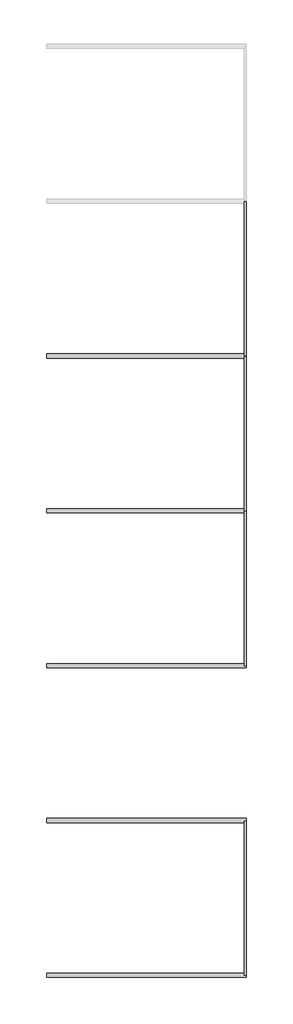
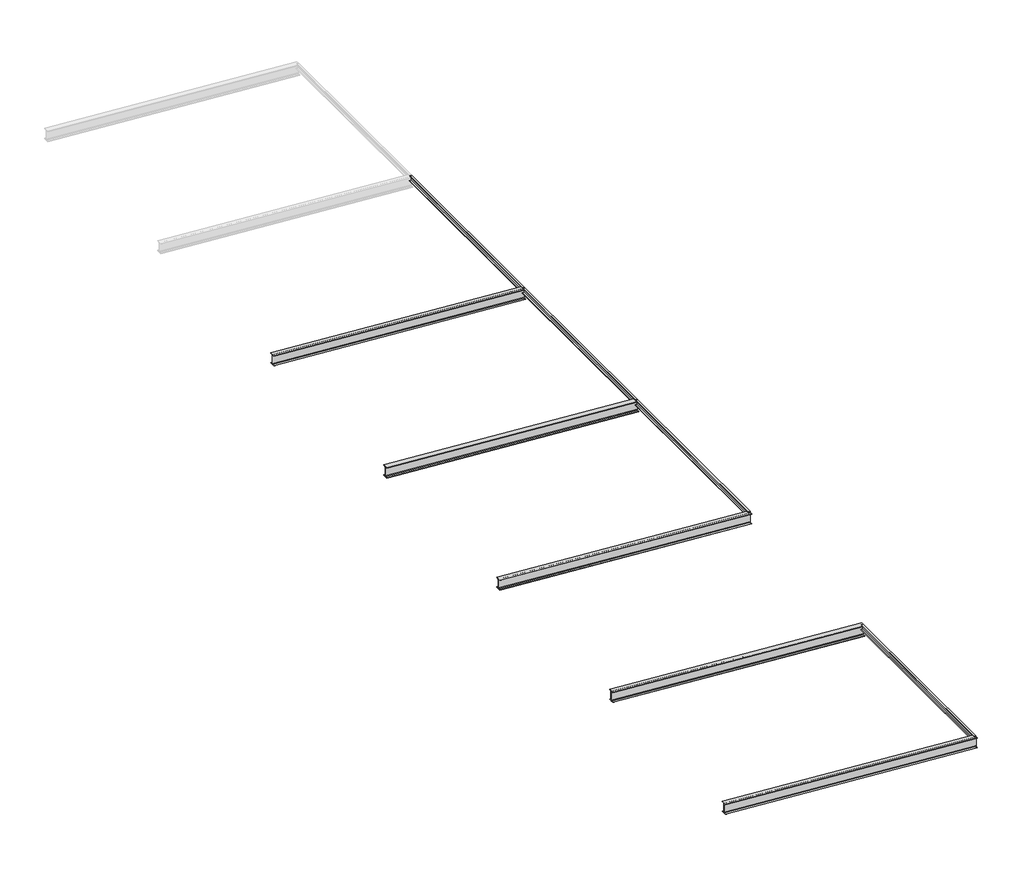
# One storey, part 1 of 2: 9 beams.
"""IFC4 building model written with IfcOpenShell, lengths in millimetres."""

from ifc_helpers import new_model, si_unit, frame, origin, place, context, project, spatial, polyline, ellipse_curve, transform, mapped, element, save
from ifc_brep_helpers import plane_surface, revolved_surface, advanced_brep
from components import c160_676f0d43

model = new_model("IFC4")

# Units and contexts
model_context = context("Model", 3, world=origin())
ifc_project = project(units=[si_unit("LENGTHUNIT", "METRE", prefix="MILLI")], contexts=[model_context])

# Site, building, storey
site = spatial("IfcSite", under=ifc_project)
building = spatial("IfcBuilding", under=site)
storey = spatial("IfcBuildingStorey", under=building, Name="+3,50 góra", Elevation=3504.0)

# Beams
placement = place(None, origin())
c160_shape = c160_676f0d43(model_context)
element("IfcBeam", 1, ObjectType="RPLN C - Ceowniki normalne : C160", at=placement, inside=storey, context=model_context, shape_type="MappedRepresentation", body=[
    mapped(c160_shape, transform((11806.0493936, -33912.4816585, 3761.259887), x_axis=(0.0, -1.0, 0.0), y_axis=(0.997461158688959, 0.0, -0.07121261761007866), z_axis=(0.07121261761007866, 0.0, 0.997461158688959))),
])
element("IfcBeam", 2, ObjectType="RPLN C - Ceowniki normalne : C160", at=placement, inside=storey, context=model_context, shape_type="MappedRepresentation", body=[
    mapped(c160_shape, transform((11806.0493936, -21912.4816585, 3761.259887), x_axis=(0.0, -1.0, 0.0), y_axis=(0.997461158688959, 0.0, -0.07121261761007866), z_axis=(0.07121261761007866, 0.0, 0.997461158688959))),
])
element("IfcBeam", 3, ObjectType="RPLN C - Ceowniki normalne : C160", at=placement, inside=storey, context=model_context, shape_type="MappedRepresentation", body=[
    mapped(c160_shape, transform((11806.0493936, -15912.4816585, 3761.259887), x_axis=(0.0, -1.0, 0.0), y_axis=(0.997461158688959, 0.0, -0.07121261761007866), z_axis=(0.07121261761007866, 0.0, 0.997461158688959))),
])
element("IfcBeam", 4, ObjectType="RPLN C - Ceowniki normalne : C160", at=placement, inside=storey, context=model_context, shape_type="MappedRepresentation", body=[
    mapped(c160_shape, transform((11806.0493936, -9912.4816585, 3761.259887), x_axis=(0.0, -1.0, 0.0), y_axis=(0.997461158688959, 0.0, -0.07121261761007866), z_axis=(0.07121261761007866, 0.0, 0.997461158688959))),
])
element("IfcBeam", 5, ObjectType="RPLN IPE - Dwuteowniki równoległościenne : I330PE", at=placement, inside=storey, context=model_context, shape_type="AdvancedBrep", body=[
    advanced_brep(
    [(4098.4032904, -36890.7316585, 4062.6389037), (4098.4032904, -36832.4816585, 4062.6389037), (4098.4032904, -36832.4816585, 4051.1096327), (4098.4032904, -36992.4816585, 4051.1096327), (4098.4032904, -36992.4816585, 4062.6389037), (4098.4032904, -36934.2316585, 4062.6389037), (4098.4032904, -36916.2316585, 4080.6847192), (4098.4032904, -36916.2316585, 4352.3744964), (4098.4032904, -36934.2316585, 4370.4203118), (4098.4032904, -36992.4816585, 4370.4203118), (4098.4032904, -36992.4816585, 4381.9495828), (4098.4032904, -36832.4816585, 4381.9495828), (4098.4032904, -36832.4816585, 4370.4203118), (4098.4032904, -36890.7316585, 4370.4203118), (4098.4032904, -36908.7316585, 4352.3744964), (4098.4032904, -36908.7316585, 4080.6847192), (11827.9888896, -36832.4816585, 3510.7938331), (11827.9888896, -36890.7316585, 3510.7938331), (11827.9888896, -36908.7316585, 3528.8396485), (11827.9888896, -36908.7316585, 3800.5294258), (11827.9888896, -36890.7316585, 3818.5752412), (11827.9888896, -36832.4816585, 3818.5752412), (11827.9888896, -36832.4816585, 3830.1045122), (11827.9888896, -36992.4816585, 3830.1045122), (11827.9888896, -36992.4816585, 3818.5752412), (11827.9888896, -36934.2316585, 3818.5752412), (11827.9888896, -36916.2316585, 3800.5294258), (11827.9888896, -36916.2316585, 3528.8396485), (11827.9888896, -36934.2316585, 3510.7938331), (11827.9888896, -36992.4816585, 3510.7938331), (11827.9888896, -36992.4816585, 3499.2645621), (11827.9888896, -36832.4816585, 3499.2645621)],
    [
        (0, 1),
        (1, 2),
        (2, 3),
        (3, 4),
        (4, 5),
        (5, 6, ellipse_curve(frame((4098.4032904, -36934.2316585, 4080.6847192), z_axis=(1.0, 0.0, 0.0), x_axis=(0.0, 0.0, 1.0)), 18.0458155, 18.0)),
        (6, 7),
        (7, 8, ellipse_curve(frame((4098.4032904, -36934.2316585, 4352.3744964), z_axis=(1.0, 0.0, 0.0), x_axis=(0.0, 0.0, 1.0)), 18.0458155, 18.0)),
        (8, 9),
        (9, 10),
        (10, 11),
        (11, 12),
        (12, 13),
        (13, 14, ellipse_curve(frame((4098.4032904, -36890.7316585, 4352.3744964), z_axis=(1.0, 0.0, 0.0), x_axis=(0.0, 0.0, 1.0)), 18.0458155, 18.0)),
        (14, 15),
        (15, 0, ellipse_curve(frame((4098.4032904, -36890.7316585, 4080.6847192), z_axis=(1.0, 0.0, 0.0), x_axis=(0.0, 0.0, 1.0)), 18.0458155, 18.0)),
        (16, 17),
        (17, 18, ellipse_curve(frame((11827.9888896, -36890.7316585, 3528.8396485), z_axis=(-1.0, 0.0, 0.0), x_axis=(0.0, 0.0, 1.0)), 18.0458155, 18.0)),
        (18, 19),
        (19, 20, ellipse_curve(frame((11827.9888896, -36890.7316585, 3800.5294258), z_axis=(-1.0, 0.0, 0.0), x_axis=(0.0, 0.0, 1.0)), 18.0458155, 18.0)),
        (20, 21),
        (21, 22),
        (22, 23),
        (23, 24),
        (24, 25),
        (25, 26, ellipse_curve(frame((11827.9888896, -36934.2316585, 3800.5294258), z_axis=(-1.0, 0.0, 0.0), x_axis=(0.0, 0.0, 1.0)), 18.0458155, 18.0)),
        (26, 27),
        (27, 28, ellipse_curve(frame((11827.9888896, -36934.2316585, 3528.8396485), z_axis=(-1.0, 0.0, 0.0), x_axis=(0.0, 0.0, 1.0)), 18.0458155, 18.0)),
        (28, 29),
        (29, 30),
        (30, 31),
        (31, 16),
        (16, 1),
        (0, 17),
        (31, 2),
        (30, 3),
        (29, 4),
        (28, 5),
        (27, 6),
        (26, 7),
        (25, 8),
        (24, 9),
        (23, 10),
        (22, 11),
        (21, 12),
        (20, 13),
        (19, 14),
        (18, 15),
    ],
    [
        plane_surface(frame((4098.4032904, -28791.4644976, 4040.8513801), z_axis=(-1.0, 0.0, 0.0), x_axis=(0.0, 0.0, -1.0))),
        plane_surface(frame((11827.9888896, -28791.4644976, 3790.5936883), z_axis=(1.0, 0.0, 0.0), x_axis=(0.0, 0.0, 1.0))),
        plane_surface(frame((11911.7510301, -36832.4816585, 3504.8137292), z_axis=(0.07121261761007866, 0.0, 0.997461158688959), x_axis=(-0.997461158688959, 0.0, 0.07121261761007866))),
        plane_surface(frame((11910.932085, -36832.4816585, 3493.3429259), z_axis=(0.0, 1.0, 0.0), x_axis=(-0.997461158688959, 0.0, 0.07121261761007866))),
        plane_surface(frame((11910.932085, -36992.4816585, 3493.3429259), z_axis=(-0.07121261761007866, 0.0, -0.997461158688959), x_axis=(-0.997461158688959, 0.0, 0.07121261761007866))),
        plane_surface(frame((11911.7510301, -36992.4816585, 3504.8137292), z_axis=(0.0, -1.0, 0.0), x_axis=(-0.997461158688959, 0.0, 0.07121261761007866))),
        plane_surface(frame((11911.7510301, -36934.2316585, 3504.8137292), z_axis=(0.07121261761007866, 0.0, 0.997461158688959), x_axis=(-0.997461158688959, 0.0, 0.07121261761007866))),
        revolved_surface(polyline([(4097.12146327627, -36952.2316585, 4080.7762337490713), (11829.270716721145, -36952.2316585, 3528.7481339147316)]), (11913.0328572, -36934.2316585, 3522.7680301), (-0.997461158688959, 0.0, 0.07121261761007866)),
        plane_surface(frame((11932.3314766, -36916.2316585, 3793.0800041), z_axis=(0.0, -1.0, 0.0), x_axis=(-0.997461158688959, 0.0, 0.07121261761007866))),
        revolved_surface(polyline([(4097.121463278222, -36952.2316585, 4352.466010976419), (11829.270716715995, -36952.2316585, 3800.4379111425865)]), (11932.3314766, -36934.2316585, 3793.0800041), (-0.997461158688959, 0.0, 0.07121261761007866)),
        plane_surface(frame((11933.6133037, -36992.4816585, 3811.034305), z_axis=(-0.07121261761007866, 0.0, -0.997461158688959), x_axis=(-0.997461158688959, 0.0, 0.07121261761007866))),
        plane_surface(frame((11934.4322488, -36992.4816585, 3822.5051083), z_axis=(0.0, -1.0, 0.0), x_axis=(-0.997461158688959, 0.0, 0.07121261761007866))),
        plane_surface(frame((11934.4322488, -36832.4816585, 3822.5051083), z_axis=(0.07121261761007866, 0.0, 0.997461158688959), x_axis=(-0.997461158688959, 0.0, 0.07121261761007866))),
        plane_surface(frame((11933.6133037, -36832.4816585, 3811.034305), z_axis=(0.0, 1.0, 0.0), x_axis=(-0.997461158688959, 0.0, 0.07121261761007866))),
        plane_surface(frame((11933.6133037, -36890.7316585, 3811.034305), z_axis=(-0.07121261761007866, 0.0, -0.997461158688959), x_axis=(-0.997461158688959, 0.0, 0.07121261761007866))),
        revolved_surface(polyline([(4097.121463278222, -36908.7316585, 4352.466010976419), (11829.270716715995, -36908.7316585, 3800.4379111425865)]), (11932.3314766, -36890.7316585, 3793.0800041), (-0.997461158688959, 0.0, 0.07121261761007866)),
        plane_surface(frame((11913.0328572, -36908.7316585, 3522.7680301), z_axis=(0.0, 1.0, 0.0), x_axis=(-0.997461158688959, 0.0, 0.07121261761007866))),
        revolved_surface(polyline([(4097.12146327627, -36908.7316585, 4080.7762337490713), (11829.270716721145, -36908.7316585, 3528.7481339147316)]), (11913.0328572, -36890.7316585, 3522.7680301), (-0.997461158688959, 0.0, 0.07121261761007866)),
    ],
    [
        (0, [[1, 2, 3, 4, 5, 6, 7, 8, 9, 10, 11, 12, 13, 14, 15, 16]]),
        (1, [[17, 18, 19, 20, 21, 22, 23, 24, 25, 26, 27, 28, 29, 30, 31, 32]]),
        (2, [[33, -1, 34, -17]]),
        (3, [[35, -2, -33, -32]]),
        (4, [[36, -3, -35, -31]]),
        (5, [[37, -4, -36, -30]]),
        (6, [[38, -5, -37, -29]]),
        (7, [[39, -6, -38, -28]]),
        (8, [[40, -7, -39, -27]]),
        (9, [[41, -8, -40, -26]]),
        (10, [[42, -9, -41, -25]]),
        (11, [[43, -10, -42, -24]]),
        (12, [[44, -11, -43, -23]]),
        (13, [[45, -12, -44, -22]]),
        (14, [[46, -13, -45, -21]]),
        (15, [[47, -14, -46, -20]]),
        (16, [[48, -15, -47, -19]]),
        (17, [[-34, -16, -48, -18]]),
    ],
),
])
element("IfcBeam", 6, ObjectType="RPLN IPE - Dwuteowniki równoległościenne : I330PE", at=placement, inside=storey, context=model_context, shape_type="AdvancedBrep", body=[
    advanced_brep(
    [(4098.4032904, -30890.7316585, 4052.3806511), (4098.4032904, -30832.4816585, 4052.3806511), (4098.4032904, -30832.4816585, 4040.8513801), (4098.4032904, -30992.4816585, 4040.8513801), (4098.4032904, -30992.4816585, 4052.3806511), (4098.4032904, -30934.2316585, 4052.3806511), (4098.4032904, -30916.2316585, 4070.4264665), (4098.4032904, -30916.2316585, 4342.1162438), (4098.4032904, -30934.2316585, 4360.1620592), (4098.4032904, -30992.4816585, 4360.1620592), (4098.4032904, -30992.4816585, 4371.6913302), (4098.4032904, -30832.4816585, 4371.6913302), (4098.4032904, -30832.4816585, 4360.1620592), (4098.4032904, -30890.7316585, 4360.1620592), (4098.4032904, -30908.7316585, 4342.1162438), (4098.4032904, -30908.7316585, 4070.4264665), (11827.9888896, -30832.4816585, 3500.5355804), (11827.9888896, -30890.7316585, 3500.5355804), (11827.9888896, -30908.7316585, 3518.5813959), (11827.9888896, -30908.7316585, 3790.2711731), (11827.9888896, -30890.7316585, 3808.3169886), (11827.9888896, -30832.4816585, 3808.3169886), (11827.9888896, -30832.4816585, 3819.8462596), (11827.9888896, -30992.4816585, 3819.8462596), (11827.9888896, -30992.4816585, 3808.3169886), (11827.9888896, -30934.2316585, 3808.3169886), (11827.9888896, -30916.2316585, 3790.2711731), (11827.9888896, -30916.2316585, 3518.5813959), (11827.9888896, -30934.2316585, 3500.5355804), (11827.9888896, -30992.4816585, 3500.5355804), (11827.9888896, -30992.4816585, 3489.0063094), (11827.9888896, -30832.4816585, 3489.0063094)],
    [
        (0, 1),
        (1, 2),
        (2, 3),
        (3, 4),
        (4, 5),
        (5, 6, ellipse_curve(frame((4098.4032904, -30934.2316585, 4070.4264665), z_axis=(1.0, 0.0, 0.0), x_axis=(0.0, 0.0, 1.0)), 18.0458155, 18.0)),
        (6, 7),
        (7, 8, ellipse_curve(frame((4098.4032904, -30934.2316585, 4342.1162438), z_axis=(1.0, 0.0, 0.0), x_axis=(0.0, 0.0, 1.0)), 18.0458155, 18.0)),
        (8, 9),
        (9, 10),
        (10, 11),
        (11, 12),
        (12, 13),
        (13, 14, ellipse_curve(frame((4098.4032904, -30890.7316585, 4342.1162438), z_axis=(1.0, 0.0, 0.0), x_axis=(0.0, 0.0, 1.0)), 18.0458155, 18.0)),
        (14, 15),
        (15, 0, ellipse_curve(frame((4098.4032904, -30890.7316585, 4070.4264665), z_axis=(1.0, 0.0, 0.0), x_axis=(0.0, 0.0, 1.0)), 18.0458155, 18.0)),
        (16, 17),
        (17, 18, ellipse_curve(frame((11827.9888896, -30890.7316585, 3518.5813959), z_axis=(-1.0, 0.0, 0.0), x_axis=(0.0, 0.0, 1.0)), 18.0458155, 18.0)),
        (18, 19),
        (19, 20, ellipse_curve(frame((11827.9888896, -30890.7316585, 3790.2711731), z_axis=(-1.0, 0.0, 0.0), x_axis=(0.0, 0.0, 1.0)), 18.0458155, 18.0)),
        (20, 21),
        (21, 22),
        (22, 23),
        (23, 24),
        (24, 25),
        (25, 26, ellipse_curve(frame((11827.9888896, -30934.2316585, 3790.2711731), z_axis=(-1.0, 0.0, 0.0), x_axis=(0.0, 0.0, 1.0)), 18.0458155, 18.0)),
        (26, 27),
        (27, 28, ellipse_curve(frame((11827.9888896, -30934.2316585, 3518.5813959), z_axis=(-1.0, 0.0, 0.0), x_axis=(0.0, 0.0, 1.0)), 18.0458155, 18.0)),
        (28, 29),
        (29, 30),
        (30, 31),
        (31, 16),
        (16, 1),
        (0, 17),
        (31, 2),
        (30, 3),
        (29, 4),
        (28, 5),
        (27, 6),
        (26, 7),
        (25, 8),
        (24, 9),
        (23, 10),
        (22, 11),
        (21, 12),
        (20, 13),
        (19, 14),
        (18, 15),
    ],
    [
        plane_surface(frame((4098.4032904, -28791.4644976, 4040.8513801), z_axis=(-1.0, 0.0, 0.0), x_axis=(0.0, 0.0, -1.0))),
        plane_surface(frame((11827.9888896, -28791.4644976, 3790.5936883), z_axis=(1.0, 0.0, 0.0), x_axis=(0.0, 0.0, 1.0))),
        plane_surface(frame((11876.6555373, -30832.4816585, 3497.0610799), z_axis=(0.07121261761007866, 0.0, 0.997461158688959), x_axis=(-0.997461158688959, 0.0, 0.07121261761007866))),
        plane_surface(frame((11875.8365922, -30832.4816585, 3485.5902765), z_axis=(0.0, 1.0, 0.0), x_axis=(-0.997461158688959, 0.0, 0.07121261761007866))),
        plane_surface(frame((11875.8365922, -30992.4816585, 3485.5902765), z_axis=(-0.07121261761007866, 0.0, -0.997461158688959), x_axis=(-0.997461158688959, 0.0, 0.07121261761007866))),
        plane_surface(frame((11876.6555373, -30992.4816585, 3497.0610799), z_axis=(0.0, -1.0, 0.0), x_axis=(-0.997461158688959, 0.0, 0.07121261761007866))),
        plane_surface(frame((11876.6555373, -30934.2316585, 3497.0610799), z_axis=(0.07121261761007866, 0.0, 0.997461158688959), x_axis=(-0.997461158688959, 0.0, 0.07121261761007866))),
        revolved_surface(polyline([(4097.121463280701, -30952.2316585, 4070.517981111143), (11829.270716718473, -30952.2316585, 3518.48988127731)]), (11877.9373644, -30934.2316585, 3515.0153807), (-0.997461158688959, 0.0, 0.07121261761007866)),
        plane_surface(frame((11897.2359838, -30916.2316585, 3785.3273547), z_axis=(0.0, -1.0, 0.0), x_axis=(-0.997461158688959, 0.0, 0.07121261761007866))),
        revolved_surface(polyline([(4097.121463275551, -30952.2316585, 4342.207758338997), (11829.270716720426, -30952.2316585, 3790.1796585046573)]), (11897.2359838, -30934.2316585, 3785.3273547), (-0.997461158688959, 0.0, 0.07121261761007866)),
        plane_surface(frame((11898.5178109, -30992.4816585, 3803.2816556), z_axis=(-0.07121261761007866, 0.0, -0.997461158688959), x_axis=(-0.997461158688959, 0.0, 0.07121261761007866))),
        plane_surface(frame((11899.336756, -30992.4816585, 3814.7524589), z_axis=(0.0, -1.0, 0.0), x_axis=(-0.997461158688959, 0.0, 0.07121261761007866))),
        plane_surface(frame((11899.336756, -30832.4816585, 3814.7524589), z_axis=(0.07121261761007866, 0.0, 0.997461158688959), x_axis=(-0.997461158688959, 0.0, 0.07121261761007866))),
        plane_surface(frame((11898.5178109, -30832.4816585, 3803.2816556), z_axis=(0.0, 1.0, 0.0), x_axis=(-0.997461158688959, 0.0, 0.07121261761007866))),
        plane_surface(frame((11898.5178109, -30890.7316585, 3803.2816556), z_axis=(-0.07121261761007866, 0.0, -0.997461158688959), x_axis=(-0.997461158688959, 0.0, 0.07121261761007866))),
        revolved_surface(polyline([(4097.121463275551, -30908.7316585, 4342.207758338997), (11829.270716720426, -30908.7316585, 3790.1796585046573)]), (11897.2359838, -30890.7316585, 3785.3273547), (-0.997461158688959, 0.0, 0.07121261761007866)),
        plane_surface(frame((11877.9373644, -30908.7316585, 3515.0153807), z_axis=(0.0, 1.0, 0.0), x_axis=(-0.997461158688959, 0.0, 0.07121261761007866))),
        revolved_surface(polyline([(4097.121463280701, -30908.7316585, 4070.517981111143), (11829.270716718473, -30908.7316585, 3518.48988127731)]), (11877.9373644, -30890.7316585, 3515.0153807), (-0.997461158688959, 0.0, 0.07121261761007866)),
    ],
    [
        (0, [[1, 2, 3, 4, 5, 6, 7, 8, 9, 10, 11, 12, 13, 14, 15, 16]]),
        (1, [[17, 18, 19, 20, 21, 22, 23, 24, 25, 26, 27, 28, 29, 30, 31, 32]]),
        (2, [[33, -1, 34, -17]]),
        (3, [[35, -2, -33, -32]]),
        (4, [[36, -3, -35, -31]]),
        (5, [[37, -4, -36, -30]]),
        (6, [[38, -5, -37, -29]]),
        (7, [[39, -6, -38, -28]]),
        (8, [[40, -7, -39, -27]]),
        (9, [[41, -8, -40, -26]]),
        (10, [[42, -9, -41, -25]]),
        (11, [[43, -10, -42, -24]]),
        (12, [[44, -11, -43, -23]]),
        (13, [[45, -12, -44, -22]]),
        (14, [[46, -13, -45, -21]]),
        (15, [[47, -14, -46, -20]]),
        (16, [[48, -15, -47, -19]]),
        (17, [[-34, -16, -48, -18]]),
    ],
),
])
element("IfcBeam", 7, ObjectType="RPLN IPE - Dwuteowniki równoległościenne : I330PE", at=placement, inside=storey, context=model_context, shape_type="AdvancedBrep", body=[
    advanced_brep(
    [(11827.9888896, -24832.4816585, 3500.5355804), (11827.9888896, -24890.7316585, 3500.5355804), (11827.9888896, -24908.7316585, 3518.5813959), (11827.9888896, -24908.7316585, 3790.2711731), (11827.9888896, -24890.7316585, 3808.3169886), (11827.9888896, -24832.4816585, 3808.3169886), (11827.9888896, -24832.4816585, 3819.8462596), (11827.9888896, -24992.4816585, 3819.8462596), (11827.9888896, -24992.4816585, 3808.3169886), (11827.9888896, -24934.2316585, 3808.3169886), (11827.9888896, -24916.2316585, 3790.2711731), (11827.9888896, -24916.2316585, 3518.5813959), (11827.9888896, -24934.2316585, 3500.5355804), (11827.9888896, -24992.4816585, 3500.5355804), (11827.9888896, -24992.4816585, 3489.0063094), (11827.9888896, -24832.4816585, 3489.0063094), (4098.4032904, -24832.4816585, 4052.3806511), (4098.4032904, -24832.4816585, 4040.8513801), (4098.4032904, -24992.4816585, 4040.8513801), (4098.4032904, -24992.4816585, 4052.3806511), (4098.4032904, -24934.2316585, 4052.3806511), (4098.4032904, -24916.2316585, 4070.4264665), (4098.4032904, -24916.2316585, 4342.1162438), (4098.4032904, -24934.2316585, 4360.1620592), (4098.4032904, -24992.4816585, 4360.1620592), (4098.4032904, -24992.4816585, 4371.6913302), (4098.4032904, -24832.4816585, 4371.6913302), (4098.4032904, -24832.4816585, 4360.1620592), (4098.4032904, -24890.7316585, 4360.1620592), (4098.4032904, -24908.7316585, 4342.1162438), (4098.4032904, -24908.7316585, 4070.4264665), (4098.4032904, -24890.7316585, 4052.3806511)],
    [
        (0, 1),
        (1, 2, ellipse_curve(frame((11827.9888896, -24890.7316585, 3518.5813959), z_axis=(-1.0, 0.0, 0.0), x_axis=(0.0, 0.0, 1.0)), 18.0458155, 18.0)),
        (2, 3),
        (3, 4, ellipse_curve(frame((11827.9888896, -24890.7316585, 3790.2711731), z_axis=(-1.0, 0.0, 0.0), x_axis=(0.0, 0.0, 1.0)), 18.0458155, 18.0)),
        (4, 5),
        (5, 6),
        (6, 7),
        (7, 8),
        (8, 9),
        (9, 10, ellipse_curve(frame((11827.9888896, -24934.2316585, 3790.2711731), z_axis=(-1.0, 0.0, 0.0), x_axis=(0.0, 0.0, 1.0)), 18.0458155, 18.0)),
        (10, 11),
        (11, 12, ellipse_curve(frame((11827.9888896, -24934.2316585, 3518.5813959), z_axis=(-1.0, 0.0, 0.0), x_axis=(0.0, 0.0, 1.0)), 18.0458155, 18.0)),
        (12, 13),
        (13, 14),
        (14, 15),
        (15, 0),
        (16, 17),
        (17, 18),
        (18, 19),
        (19, 20),
        (20, 21, ellipse_curve(frame((4098.4032904, -24934.2316585, 4070.4264665), z_axis=(1.0, 0.0, 0.0), x_axis=(0.0, 0.0, 1.0)), 18.0458155, 18.0)),
        (21, 22),
        (22, 23, ellipse_curve(frame((4098.4032904, -24934.2316585, 4342.1162438), z_axis=(1.0, 0.0, 0.0), x_axis=(0.0, 0.0, 1.0)), 18.0458155, 18.0)),
        (23, 24),
        (24, 25),
        (25, 26),
        (26, 27),
        (27, 28),
        (28, 29, ellipse_curve(frame((4098.4032904, -24890.7316585, 4342.1162438), z_axis=(1.0, 0.0, 0.0), x_axis=(0.0, 0.0, 1.0)), 18.0458155, 18.0)),
        (29, 30),
        (30, 31, ellipse_curve(frame((4098.4032904, -24890.7316585, 4070.4264665), z_axis=(1.0, 0.0, 0.0), x_axis=(0.0, 0.0, 1.0)), 18.0458155, 18.0)),
        (31, 16),
        (0, 16),
        (31, 1),
        (30, 2),
        (29, 3),
        (28, 4),
        (27, 5),
        (26, 6),
        (25, 7),
        (24, 8),
        (23, 9),
        (22, 10),
        (21, 11),
        (20, 12),
        (19, 13),
        (18, 14),
        (17, 15),
    ],
    [
        plane_surface(frame((11827.9888896, -28791.4644976, 3790.5936883), z_axis=(1.0, 0.0, 0.0), x_axis=(0.0, 0.0, 1.0))),
        plane_surface(frame((4098.4032904, -28791.4644976, 4040.8513801), z_axis=(-1.0, 0.0, 0.0), x_axis=(0.0, 0.0, -1.0))),
        plane_surface(frame((12010.8699902, -24832.4816585, 3487.4789899), z_axis=(0.07121261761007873, 0.0, 0.997461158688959), x_axis=(-0.997461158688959, 0.0, 0.07121261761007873))),
        revolved_surface(polyline([(4097.121463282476, -24908.7316585, 4070.5179811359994), (11829.270716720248, -24908.7316585, 3518.489881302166)]), (12012.1518174, -24890.7316585, 3505.4332908), (-0.997461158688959, 0.0, 0.07121261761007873)),
        plane_surface(frame((12012.1518174, -24908.7316585, 3505.4332908), z_axis=(0.0, 1.0, 0.0), x_axis=(-0.997461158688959, 0.0, 0.07121261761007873))),
        revolved_surface(polyline([(4097.121463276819, -24908.7316585, 4342.207758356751), (11829.270716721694, -24908.7316585, 3790.17965852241)]), (12031.4504367, -24890.7316585, 3775.7452648), (-0.997461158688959, 0.0, 0.07121261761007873)),
        plane_surface(frame((12032.7322638, -24890.7316585, 3793.6995657), z_axis=(-0.07121261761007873, 0.0, -0.997461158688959), x_axis=(-0.997461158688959, 0.0, 0.07121261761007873))),
        plane_surface(frame((12032.7322638, -24832.4816585, 3793.6995657), z_axis=(0.0, 1.0, 0.0), x_axis=(-0.997461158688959, 0.0, 0.07121261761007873))),
        plane_surface(frame((12033.551209, -24832.4816585, 3805.170369), z_axis=(0.07121261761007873, 0.0, 0.997461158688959), x_axis=(-0.997461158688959, 0.0, 0.07121261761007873))),
        plane_surface(frame((12033.551209, -24992.4816585, 3805.170369), z_axis=(0.0, -1.0, 0.0), x_axis=(-0.997461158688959, 0.0, 0.07121261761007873))),
        plane_surface(frame((12032.7322638, -24992.4816585, 3793.6995657), z_axis=(-0.07121261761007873, 0.0, -0.997461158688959), x_axis=(-0.997461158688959, 0.0, 0.07121261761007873))),
        revolved_surface(polyline([(4097.121463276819, -24952.2316585, 4342.207758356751), (11829.270716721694, -24952.2316585, 3790.17965852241)]), (12031.4504367, -24934.2316585, 3775.7452648), (-0.997461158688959, 0.0, 0.07121261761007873)),
        plane_surface(frame((12031.4504367, -24916.2316585, 3775.7452648), z_axis=(0.0, -1.0, 0.0), x_axis=(-0.997461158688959, 0.0, 0.07121261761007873))),
        revolved_surface(polyline([(4097.121463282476, -24952.2316585, 4070.5179811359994), (11829.270716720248, -24952.2316585, 3518.489881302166)]), (12012.1518174, -24934.2316585, 3505.4332908), (-0.997461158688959, 0.0, 0.07121261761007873)),
        plane_surface(frame((12010.8699902, -24934.2316585, 3487.4789899), z_axis=(0.07121261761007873, 0.0, 0.997461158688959), x_axis=(-0.997461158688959, 0.0, 0.07121261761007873))),
        plane_surface(frame((12010.8699902, -24992.4816585, 3487.4789899), z_axis=(0.0, -1.0, 0.0), x_axis=(-0.997461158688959, 0.0, 0.07121261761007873))),
        plane_surface(frame((12010.0510451, -24992.4816585, 3476.0081866), z_axis=(-0.07121261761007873, 0.0, -0.997461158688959), x_axis=(-0.997461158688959, 0.0, 0.07121261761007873))),
        plane_surface(frame((12010.0510451, -24832.4816585, 3476.0081866), z_axis=(0.0, 1.0, 0.0), x_axis=(-0.997461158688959, 0.0, 0.07121261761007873))),
    ],
    [
        (0, [[1, 2, 3, 4, 5, 6, 7, 8, 9, 10, 11, 12, 13, 14, 15, 16]]),
        (1, [[17, 18, 19, 20, 21, 22, 23, 24, 25, 26, 27, 28, 29, 30, 31, 32]]),
        (2, [[33, -32, 34, -1]]),
        (3, [[-34, -31, 35, -2]]),
        (4, [[-35, -30, 36, -3]]),
        (5, [[-36, -29, 37, -4]]),
        (6, [[-37, -28, 38, -5]]),
        (7, [[-38, -27, 39, -6]]),
        (8, [[-39, -26, 40, -7]]),
        (9, [[-40, -25, 41, -8]]),
        (10, [[-41, -24, 42, -9]]),
        (11, [[-42, -23, 43, -10]]),
        (12, [[-43, -22, 44, -11]]),
        (13, [[-44, -21, 45, -12]]),
        (14, [[-45, -20, 46, -13]]),
        (15, [[-46, -19, 47, -14]]),
        (16, [[-47, -18, 48, -15]]),
        (17, [[-48, -17, -33, -16]]),
    ],
),
])
element("IfcBeam", 8, ObjectType="RPLN IPE - Dwuteowniki równoległościenne : I330PE", at=placement, inside=storey, context=model_context, shape_type="AdvancedBrep", body=[
    advanced_brep(
    [(4098.4032904, -18890.7316585, 4052.3806511), (4098.4032904, -18832.4816585, 4052.3806511), (4098.4032904, -18832.4816585, 4040.8513801), (4098.4032904, -18992.4816585, 4040.8513801), (4098.4032904, -18992.4816585, 4052.3806511), (4098.4032904, -18934.2316585, 4052.3806511), (4098.4032904, -18916.2316585, 4070.4264665), (4098.4032904, -18916.2316585, 4342.1162438), (4098.4032904, -18934.2316585, 4360.1620592), (4098.4032904, -18992.4816585, 4360.1620592), (4098.4032904, -18992.4816585, 4371.6913302), (4098.4032904, -18832.4816585, 4371.6913302), (4098.4032904, -18832.4816585, 4360.1620592), (4098.4032904, -18890.7316585, 4360.1620592), (4098.4032904, -18908.7316585, 4342.1162438), (4098.4032904, -18908.7316585, 4070.4264665), (11827.9888896, -18832.4816585, 3500.5355804), (11827.9888896, -18890.7316585, 3500.5355804), (11827.9888896, -18908.7316585, 3518.5813959), (11827.9888896, -18908.7316585, 3790.2711731), (11827.9888896, -18890.7316585, 3808.3169886), (11827.9888896, -18832.4816585, 3808.3169886), (11827.9888896, -18832.4816585, 3819.8462596), (11827.9888896, -18992.4816585, 3819.8462596), (11827.9888896, -18992.4816585, 3808.3169886), (11827.9888896, -18934.2316585, 3808.3169886), (11827.9888896, -18916.2316585, 3790.2711731), (11827.9888896, -18916.2316585, 3518.5813959), (11827.9888896, -18934.2316585, 3500.5355804), (11827.9888896, -18992.4816585, 3500.5355804), (11827.9888896, -18992.4816585, 3489.0063094), (11827.9888896, -18832.4816585, 3489.0063094)],
    [
        (0, 1),
        (1, 2),
        (2, 3),
        (3, 4),
        (4, 5),
        (5, 6, ellipse_curve(frame((4098.4032904, -18934.2316585, 4070.4264665), z_axis=(1.0, 0.0, 0.0), x_axis=(0.0, 0.0, 1.0)), 18.0458155, 18.0)),
        (6, 7),
        (7, 8, ellipse_curve(frame((4098.4032904, -18934.2316585, 4342.1162438), z_axis=(1.0, 0.0, 0.0), x_axis=(0.0, 0.0, 1.0)), 18.0458155, 18.0)),
        (8, 9),
        (9, 10),
        (10, 11),
        (11, 12),
        (12, 13),
        (13, 14, ellipse_curve(frame((4098.4032904, -18890.7316585, 4342.1162438), z_axis=(1.0, 0.0, 0.0), x_axis=(0.0, 0.0, 1.0)), 18.0458155, 18.0)),
        (14, 15),
        (15, 0, ellipse_curve(frame((4098.4032904, -18890.7316585, 4070.4264665), z_axis=(1.0, 0.0, 0.0), x_axis=(0.0, 0.0, 1.0)), 18.0458155, 18.0)),
        (16, 17),
        (17, 18, ellipse_curve(frame((11827.9888896, -18890.7316585, 3518.5813959), z_axis=(-1.0, 0.0, 0.0), x_axis=(0.0, 0.0, 1.0)), 18.0458155, 18.0)),
        (18, 19),
        (19, 20, ellipse_curve(frame((11827.9888896, -18890.7316585, 3790.2711731), z_axis=(-1.0, 0.0, 0.0), x_axis=(0.0, 0.0, 1.0)), 18.0458155, 18.0)),
        (20, 21),
        (21, 22),
        (22, 23),
        (23, 24),
        (24, 25),
        (25, 26, ellipse_curve(frame((11827.9888896, -18934.2316585, 3790.2711731), z_axis=(-1.0, 0.0, 0.0), x_axis=(0.0, 0.0, 1.0)), 18.0458155, 18.0)),
        (26, 27),
        (27, 28, ellipse_curve(frame((11827.9888896, -18934.2316585, 3518.5813959), z_axis=(-1.0, 0.0, 0.0), x_axis=(0.0, 0.0, 1.0)), 18.0458155, 18.0)),
        (28, 29),
        (29, 30),
        (30, 31),
        (31, 16),
        (16, 1),
        (0, 17),
        (31, 2),
        (30, 3),
        (29, 4),
        (28, 5),
        (27, 6),
        (26, 7),
        (25, 8),
        (24, 9),
        (23, 10),
        (22, 11),
        (21, 12),
        (20, 13),
        (19, 14),
        (18, 15),
    ],
    [
        plane_surface(frame((4098.4032904, -28791.4644976, 4040.8513801), z_axis=(-1.0, 0.0, 0.0), x_axis=(0.0, 0.0, -1.0))),
        plane_surface(frame((11827.9888896, -28791.4644976, 3790.5936883), z_axis=(1.0, 0.0, 0.0), x_axis=(0.0, 0.0, 1.0))),
        plane_surface(frame((11936.0089386, -18832.4816585, 3492.8236105), z_axis=(0.07121261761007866, 0.0, 0.997461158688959), x_axis=(-0.997461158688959, 0.0, 0.07121261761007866))),
        plane_surface(frame((11935.1899935, -18832.4816585, 3481.3528072), z_axis=(0.0, 1.0, 0.0), x_axis=(-0.997461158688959, 0.0, 0.07121261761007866))),
        plane_surface(frame((11935.1899935, -18992.4816585, 3481.3528072), z_axis=(-0.07121261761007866, 0.0, -0.997461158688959), x_axis=(-0.997461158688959, 0.0, 0.07121261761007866))),
        plane_surface(frame((11936.0089386, -18992.4816585, 3492.8236105), z_axis=(0.0, -1.0, 0.0), x_axis=(-0.997461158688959, 0.0, 0.07121261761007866))),
        plane_surface(frame((11936.0089386, -18934.2316585, 3492.8236105), z_axis=(0.07121261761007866, 0.0, 0.997461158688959), x_axis=(-0.997461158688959, 0.0, 0.07121261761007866))),
        revolved_surface(polyline([(4097.121463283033, -18952.2316585, 4070.517981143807), (11829.270716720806, -18952.2316585, 3518.4898813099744)]), (11937.2907657, -18934.2316585, 3510.7779114), (-0.997461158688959, 0.0, 0.07121261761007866)),
        plane_surface(frame((11956.5893851, -18916.2316585, 3781.0898854), z_axis=(0.0, -1.0, 0.0), x_axis=(-0.997461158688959, 0.0, 0.07121261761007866))),
        revolved_surface(polyline([(4097.121463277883, -18952.2316585, 4342.207758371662), (11829.270716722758, -18952.2316585, 3790.179658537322)]), (11956.5893851, -18934.2316585, 3781.0898854), (-0.997461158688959, 0.0, 0.07121261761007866)),
        plane_surface(frame((11957.8712122, -18992.4816585, 3799.0441862), z_axis=(-0.07121261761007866, 0.0, -0.997461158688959), x_axis=(-0.997461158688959, 0.0, 0.07121261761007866))),
        plane_surface(frame((11958.6901573, -18992.4816585, 3810.5149896), z_axis=(0.0, -1.0, 0.0), x_axis=(-0.997461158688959, 0.0, 0.07121261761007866))),
        plane_surface(frame((11958.6901573, -18832.4816585, 3810.5149896), z_axis=(0.07121261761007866, 0.0, 0.997461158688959), x_axis=(-0.997461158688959, 0.0, 0.07121261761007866))),
        plane_surface(frame((11957.8712122, -18832.4816585, 3799.0441862), z_axis=(0.0, 1.0, 0.0), x_axis=(-0.997461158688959, 0.0, 0.07121261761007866))),
        plane_surface(frame((11957.8712122, -18890.7316585, 3799.0441862), z_axis=(-0.07121261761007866, 0.0, -0.997461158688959), x_axis=(-0.997461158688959, 0.0, 0.07121261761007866))),
        revolved_surface(polyline([(4097.121463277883, -18908.7316585, 4342.207758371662), (11829.270716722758, -18908.7316585, 3790.179658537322)]), (11956.5893851, -18890.7316585, 3781.0898854), (-0.997461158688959, 0.0, 0.07121261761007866)),
        plane_surface(frame((11937.2907657, -18908.7316585, 3510.7779114), z_axis=(0.0, 1.0, 0.0), x_axis=(-0.997461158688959, 0.0, 0.07121261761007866))),
        revolved_surface(polyline([(4097.121463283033, -18908.7316585, 4070.517981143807), (11829.270716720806, -18908.7316585, 3518.4898813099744)]), (11937.2907657, -18890.7316585, 3510.7779114), (-0.997461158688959, 0.0, 0.07121261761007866)),
    ],
    [
        (0, [[1, 2, 3, 4, 5, 6, 7, 8, 9, 10, 11, 12, 13, 14, 15, 16]]),
        (1, [[17, 18, 19, 20, 21, 22, 23, 24, 25, 26, 27, 28, 29, 30, 31, 32]]),
        (2, [[33, -1, 34, -17]]),
        (3, [[35, -2, -33, -32]]),
        (4, [[36, -3, -35, -31]]),
        (5, [[37, -4, -36, -30]]),
        (6, [[38, -5, -37, -29]]),
        (7, [[39, -6, -38, -28]]),
        (8, [[40, -7, -39, -27]]),
        (9, [[41, -8, -40, -26]]),
        (10, [[42, -9, -41, -25]]),
        (11, [[43, -10, -42, -24]]),
        (12, [[44, -11, -43, -23]]),
        (13, [[45, -12, -44, -22]]),
        (14, [[46, -13, -45, -21]]),
        (15, [[47, -14, -46, -20]]),
        (16, [[48, -15, -47, -19]]),
        (17, [[-34, -16, -48, -18]]),
    ],
),
])
element("IfcBeam", 9, ObjectType="RPLN IPE - Dwuteowniki równoległościenne : I330PE", at=placement, inside=storey, context=model_context, shape_type="AdvancedBrep", body=[
    advanced_brep(
    [(4098.4032904, -12890.7316585, 4052.3806511), (4098.4032904, -12832.4816585, 4052.3806511), (4098.4032904, -12832.4816585, 4040.8513801), (4098.4032904, -12992.4816585, 4040.8513801), (4098.4032904, -12992.4816585, 4052.3806511), (4098.4032904, -12934.2316585, 4052.3806511), (4098.4032904, -12916.2316585, 4070.4264665), (4098.4032904, -12916.2316585, 4342.1162438), (4098.4032904, -12934.2316585, 4360.1620592), (4098.4032904, -12992.4816585, 4360.1620592), (4098.4032904, -12992.4816585, 4371.6913302), (4098.4032904, -12832.4816585, 4371.6913302), (4098.4032904, -12832.4816585, 4360.1620592), (4098.4032904, -12890.7316585, 4360.1620592), (4098.4032904, -12908.7316585, 4342.1162438), (4098.4032904, -12908.7316585, 4070.4264665), (11827.9888896, -12832.4816585, 3500.5355804), (11827.9888896, -12890.7316585, 3500.5355804), (11827.9888896, -12908.7316585, 3518.5813959), (11827.9888896, -12908.7316585, 3790.2711731), (11827.9888896, -12890.7316585, 3808.3169886), (11827.9888896, -12832.4816585, 3808.3169886), (11827.9888896, -12832.4816585, 3819.8462596), (11827.9888896, -12992.4816585, 3819.8462596), (11827.9888896, -12992.4816585, 3808.3169886), (11827.9888896, -12934.2316585, 3808.3169886), (11827.9888896, -12916.2316585, 3790.2711731), (11827.9888896, -12916.2316585, 3518.5813959), (11827.9888896, -12934.2316585, 3500.5355804), (11827.9888896, -12992.4816585, 3500.5355804), (11827.9888896, -12992.4816585, 3489.0063094), (11827.9888896, -12832.4816585, 3489.0063094)],
    [
        (0, 1),
        (1, 2),
        (2, 3),
        (3, 4),
        (4, 5),
        (5, 6, ellipse_curve(frame((4098.4032904, -12934.2316585, 4070.4264665), z_axis=(1.0, 0.0, 0.0), x_axis=(0.0, 0.0, 1.0)), 18.0458155, 18.0)),
        (6, 7),
        (7, 8, ellipse_curve(frame((4098.4032904, -12934.2316585, 4342.1162438), z_axis=(1.0, 0.0, 0.0), x_axis=(0.0, 0.0, 1.0)), 18.0458155, 18.0)),
        (8, 9),
        (9, 10),
        (10, 11),
        (11, 12),
        (12, 13),
        (13, 14, ellipse_curve(frame((4098.4032904, -12890.7316585, 4342.1162438), z_axis=(1.0, 0.0, 0.0), x_axis=(0.0, 0.0, 1.0)), 18.0458155, 18.0)),
        (14, 15),
        (15, 0, ellipse_curve(frame((4098.4032904, -12890.7316585, 4070.4264665), z_axis=(1.0, 0.0, 0.0), x_axis=(0.0, 0.0, 1.0)), 18.0458155, 18.0)),
        (16, 17),
        (17, 18, ellipse_curve(frame((11827.9888896, -12890.7316585, 3518.5813959), z_axis=(-1.0, 0.0, 0.0), x_axis=(0.0, 0.0, 1.0)), 18.0458155, 18.0)),
        (18, 19),
        (19, 20, ellipse_curve(frame((11827.9888896, -12890.7316585, 3790.2711731), z_axis=(-1.0, 0.0, 0.0), x_axis=(0.0, 0.0, 1.0)), 18.0458155, 18.0)),
        (20, 21),
        (21, 22),
        (22, 23),
        (23, 24),
        (24, 25),
        (25, 26, ellipse_curve(frame((11827.9888896, -12934.2316585, 3790.2711731), z_axis=(-1.0, 0.0, 0.0), x_axis=(0.0, 0.0, 1.0)), 18.0458155, 18.0)),
        (26, 27),
        (27, 28, ellipse_curve(frame((11827.9888896, -12934.2316585, 3518.5813959), z_axis=(-1.0, 0.0, 0.0), x_axis=(0.0, 0.0, 1.0)), 18.0458155, 18.0)),
        (28, 29),
        (29, 30),
        (30, 31),
        (31, 16),
        (16, 1),
        (0, 17),
        (31, 2),
        (30, 3),
        (29, 4),
        (28, 5),
        (27, 6),
        (26, 7),
        (25, 8),
        (24, 9),
        (23, 10),
        (22, 11),
        (21, 12),
        (20, 13),
        (19, 14),
        (18, 15),
    ],
    [
        plane_surface(frame((4098.4032904, -28791.4644976, 4040.8513801), z_axis=(-1.0, 0.0, 0.0), x_axis=(0.0, 0.0, -1.0))),
        plane_surface(frame((11827.9888896, -28791.4644976, 3790.5936883), z_axis=(1.0, 0.0, 0.0), x_axis=(0.0, 0.0, 1.0))),
        plane_surface(frame((11992.2200755, -12832.4816585, 3488.8104796), z_axis=(0.07121261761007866, 0.0, 0.997461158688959), x_axis=(-0.997461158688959, 0.0, 0.07121261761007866))),
        plane_surface(frame((11991.4011304, -12832.4816585, 3477.3396763), z_axis=(0.0, 1.0, 0.0), x_axis=(-0.997461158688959, 0.0, 0.07121261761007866))),
        plane_surface(frame((11991.4011304, -12992.4816585, 3477.3396763), z_axis=(-0.07121261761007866, 0.0, -0.997461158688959), x_axis=(-0.997461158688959, 0.0, 0.07121261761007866))),
        plane_surface(frame((11992.2200755, -12992.4816585, 3488.8104796), z_axis=(0.0, -1.0, 0.0), x_axis=(-0.997461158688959, 0.0, 0.07121261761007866))),
        plane_surface(frame((11992.2200755, -12934.2316585, 3488.8104796), z_axis=(0.07121261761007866, 0.0, 0.997461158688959), x_axis=(-0.997461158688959, 0.0, 0.07121261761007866))),
        revolved_surface(polyline([(4097.121463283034, -12952.2316585, 4070.51798114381), (11829.270716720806, -12952.2316585, 3518.4898813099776)]), (11993.5019026, -12934.2316585, 3506.7647805), (-0.997461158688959, 0.0, 0.07121261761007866)),
        plane_surface(frame((12012.800522, -12916.2316585, 3777.0767545), z_axis=(0.0, -1.0, 0.0), x_axis=(-0.997461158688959, 0.0, 0.07121261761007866))),
        revolved_surface(polyline([(4097.121463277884, -12952.2316585, 4342.207758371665), (11829.270716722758, -12952.2316585, 3790.179658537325)]), (12012.800522, -12934.2316585, 3777.0767545), (-0.997461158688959, 0.0, 0.07121261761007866)),
        plane_surface(frame((12014.0823491, -12992.4816585, 3795.0310553), z_axis=(-0.07121261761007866, 0.0, -0.997461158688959), x_axis=(-0.997461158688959, 0.0, 0.07121261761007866))),
        plane_surface(frame((12014.9012942, -12992.4816585, 3806.5018587), z_axis=(0.0, -1.0, 0.0), x_axis=(-0.997461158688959, 0.0, 0.07121261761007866))),
        plane_surface(frame((12014.9012942, -12832.4816585, 3806.5018587), z_axis=(0.07121261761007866, 0.0, 0.997461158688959), x_axis=(-0.997461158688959, 0.0, 0.07121261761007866))),
        plane_surface(frame((12014.0823491, -12832.4816585, 3795.0310553), z_axis=(0.0, 1.0, 0.0), x_axis=(-0.997461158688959, 0.0, 0.07121261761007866))),
        plane_surface(frame((12014.0823491, -12890.7316585, 3795.0310553), z_axis=(-0.07121261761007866, 0.0, -0.997461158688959), x_axis=(-0.997461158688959, 0.0, 0.07121261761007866))),
        revolved_surface(polyline([(4097.121463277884, -12908.7316585, 4342.207758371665), (11829.270716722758, -12908.7316585, 3790.179658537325)]), (12012.800522, -12890.7316585, 3777.0767545), (-0.997461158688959, 0.0, 0.07121261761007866)),
        plane_surface(frame((11993.5019026, -12908.7316585, 3506.7647805), z_axis=(0.0, 1.0, 0.0), x_axis=(-0.997461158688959, 0.0, 0.07121261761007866))),
        revolved_surface(polyline([(4097.121463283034, -12908.7316585, 4070.51798114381), (11829.270716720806, -12908.7316585, 3518.4898813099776)]), (11993.5019026, -12890.7316585, 3506.7647805), (-0.997461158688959, 0.0, 0.07121261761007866)),
    ],
    [
        (0, [[1, 2, 3, 4, 5, 6, 7, 8, 9, 10, 11, 12, 13, 14, 15, 16]]),
        (1, [[17, 18, 19, 20, 21, 22, 23, 24, 25, 26, 27, 28, 29, 30, 31, 32]]),
        (2, [[33, -1, 34, -17]]),
        (3, [[35, -2, -33, -32]]),
        (4, [[36, -3, -35, -31]]),
        (5, [[37, -4, -36, -30]]),
        (6, [[38, -5, -37, -29]]),
        (7, [[39, -6, -38, -28]]),
        (8, [[40, -7, -39, -27]]),
        (9, [[41, -8, -40, -26]]),
        (10, [[42, -9, -41, -25]]),
        (11, [[43, -10, -42, -24]]),
        (12, [[44, -11, -43, -23]]),
        (13, [[45, -12, -44, -22]]),
        (14, [[46, -13, -45, -21]]),
        (15, [[47, -14, -46, -20]]),
        (16, [[48, -15, -47, -19]]),
        (17, [[-34, -16, -48, -18]]),
    ],
),
])

save(model, "model.ifc")
